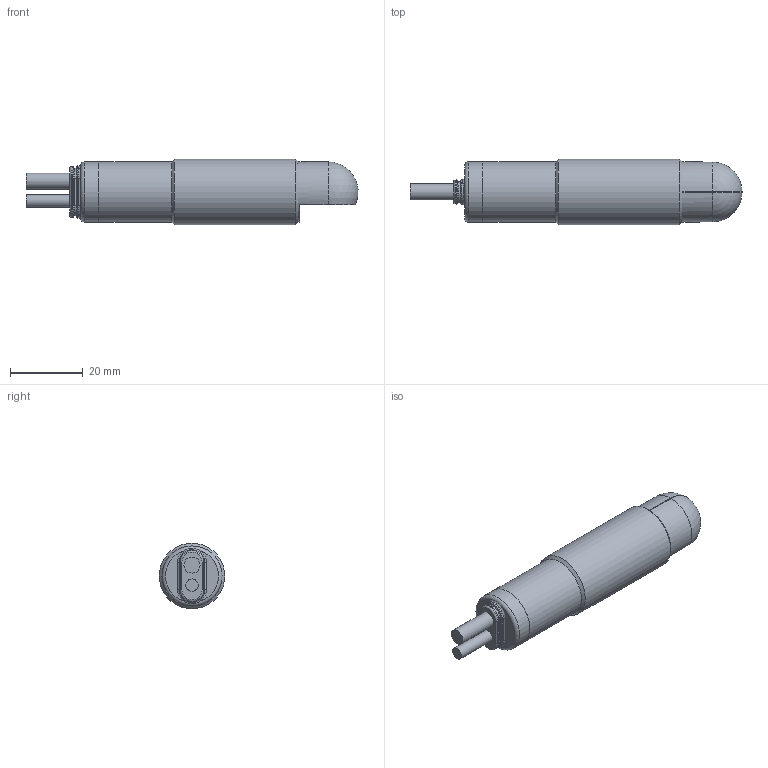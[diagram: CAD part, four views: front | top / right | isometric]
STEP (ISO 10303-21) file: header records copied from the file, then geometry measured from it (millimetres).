
FILE_DESCRIPTION((''),'2;1');
FILE_NAME('J:\Projekte\Kunststoff-Blechteile\Zeichnungen\Bibliothek Inventor\3D Solids\dbk+4\STP\dbk+4_Empf_WK_XXX_M18.stp','2010-01-28T13:45:46',('Oliver Liedtke'),(''),'Autodesk Inventor 2009','Autodesk Inventor 2009','');
FILE_SCHEMA(('AUTOMOTIVE_DESIGN { 1 0 10303 214 1 1 1 1 }'));
Length unit declared in the file: millimetre
Products named in the file (1): dbk+4_Empf_WK_XXX_M18
Bounding box: 91.18 x 18 x 18 mm (x, y, z)
Volume: 16964 mm3; surface area: 4732.1 mm2
Topology: 1 solids, 1 shells, 70 faces, 149 edges, 88 vertices
Faces by surface type: cylinder 23, plane 22, bspline 10, torus 7, cone 6, sphere 2
Full cylindrical faces by diameter (mm): 3.4 x1, 4.4 x1, 10 x1, 14 x1, 16.5 x1, 16.52 x1, 18 x1
Entity records: 2344 total; most frequent: CARTESIAN_POINT 730, DIRECTION 338, ORIENTED_EDGE 274, AXIS2_PLACEMENT_3D 144, EDGE_CURVE 137, EDGE_LOOP 87, VERTEX_POINT 86, CIRCLE 83
